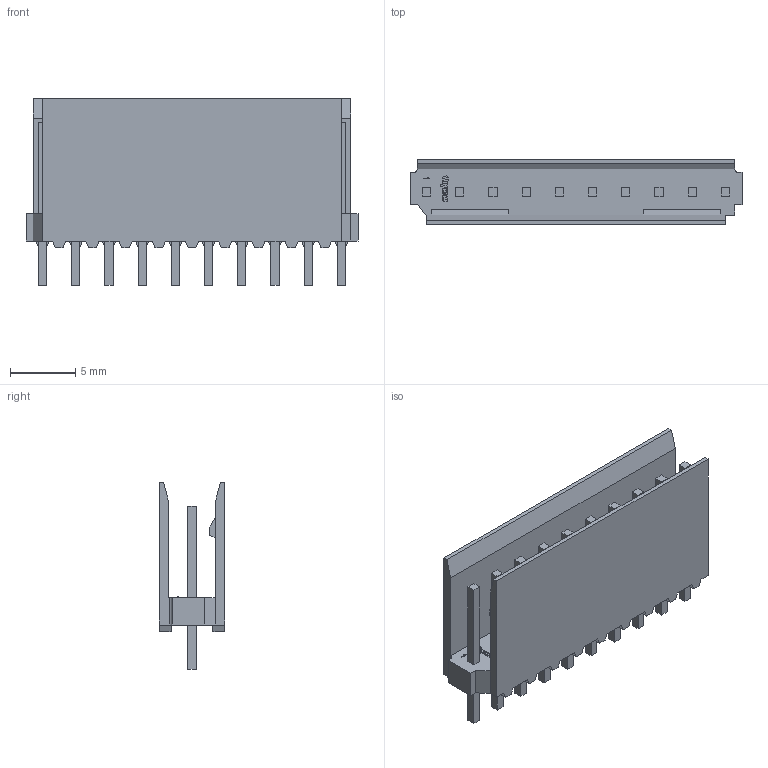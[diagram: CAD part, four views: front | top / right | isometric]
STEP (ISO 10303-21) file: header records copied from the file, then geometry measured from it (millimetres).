
FILE_DESCRIPTION(('STEP AP242'),'1');
FILE_NAME('09h8119_1-281695-0.stp','2020-03-14T07:03:19',('TraceParts'),('TraceParts S.A.'),'Spatial InterOp 3D',' ',' ');
FILE_SCHEMA(('AP242_MANAGED_MODEL_BASED_3D_ENGINEERING_MIM_LF {1 0 10303 442 1 1 4}'));
Length unit declared in the file: millimetre
Products named in the file (1): 09h8119_1-281695-0
Bounding box: 25.4 x 5 x 14.3 mm (x, y, z)
Volume: 599.1 mm3; surface area: 1508.3 mm2
Topology: 1 solids, 1 shells, 306 faces, 826 edges, 550 vertices
Faces by surface type: plane 266, cylinder 40
Entity records: 9489 total; most frequent: CARTESIAN_POINT 1683, ORIENTED_EDGE 1652, DIRECTION 1520, EDGE_CURVE 826, LINE 746, VECTOR 746, VERTEX_POINT 550, AXIS2_PLACEMENT_3D 387
